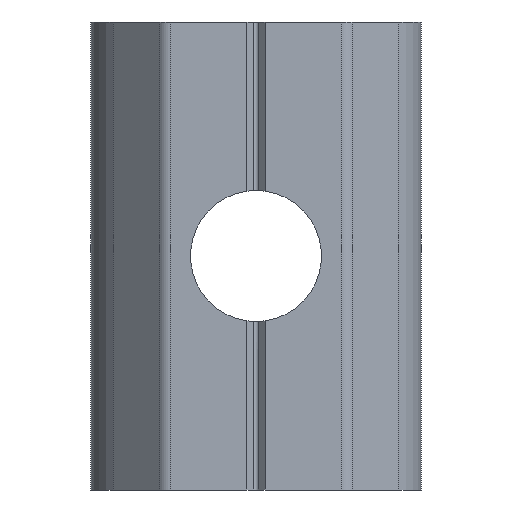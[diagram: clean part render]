
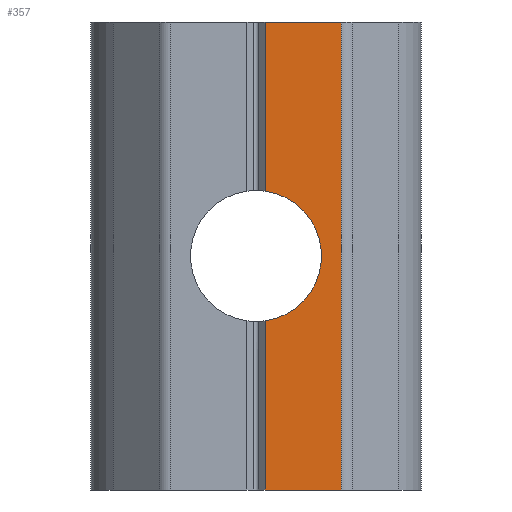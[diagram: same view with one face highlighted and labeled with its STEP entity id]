
A CAD part, front view. The second image highlights one B-rep face of the part: STEP entity #357.
In plain terms, the highlighted planar face has unit normal (0, -1, 0).
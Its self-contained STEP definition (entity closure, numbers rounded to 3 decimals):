
#8 = VECTOR ( 'NONE', #1213, 1000. ) ;
#41 = DIRECTION ( 'NONE',  ( 1., 0., 0. ) ) ;
#53 = VECTOR ( 'NONE', #1381, 1000. ) ;
#67 = ORIENTED_EDGE ( 'NONE', *, *, #1373, .F. ) ;
#71 = VERTEX_POINT ( 'NONE', #458 ) ;
#127 = EDGE_CURVE ( 'NONE', #220, #1115, #372, .T. ) ;
#161 = ORIENTED_EDGE ( 'NONE', *, *, #1418, .F. ) ;
#166 = AXIS2_PLACEMENT_3D ( 'NONE', #1031, #1313, #1257 ) ;
#187 = CARTESIAN_POINT ( 'NONE',  ( -2.936, 0., 16. ) ) ;
#220 = VERTEX_POINT ( 'NONE', #540 ) ;
#224 = CARTESIAN_POINT ( 'NONE',  ( 0.291, 0., 10.58 ) ) ;
#238 = VERTEX_POINT ( 'NONE', #406 ) ;
#304 = FACE_OUTER_BOUND ( 'NONE', #797, .T. ) ;
#308 = EDGE_CURVE ( 'NONE', #1243, #71, #959, .T. ) ;
#341 = LINE ( 'NONE', #187, #641 ) ;
#353 = EDGE_CURVE ( 'NONE', #1115, #1243, #648, .T. ) ;
#357 = ADVANCED_FACE ( 'NONE', ( #304 ), #1502, .T. ) ;
#365 = DIRECTION ( 'NONE',  ( 0., 0., -1. ) ) ;
#372 = LINE ( 'NONE', #1101, #916 ) ;
#384 = CARTESIAN_POINT ( 'NONE',  ( 2.728, 0., 1. ) ) ;
#397 = ORIENTED_EDGE ( 'NONE', *, *, #1159, .T. ) ;
#406 = CARTESIAN_POINT ( 'NONE',  ( 0.291, 0., 16. ) ) ;
#426 = CIRCLE ( 'NONE', #1487, 2.1 ) ;
#458 = CARTESIAN_POINT ( 'NONE',  ( 2.728, 0., 16. ) ) ;
#487 = LINE ( 'NONE', #857, #758 ) ;
#540 = CARTESIAN_POINT ( 'NONE',  ( 0.291, 0., 6.42 ) ) ;
#641 = VECTOR ( 'NONE', #41, 1000. ) ;
#648 = LINE ( 'NONE', #1288, #8 ) ;
#727 = CARTESIAN_POINT ( 'NONE',  ( 0., 0., 8.5 ) ) ;
#751 = DIRECTION ( 'NONE',  ( 0., 0., -1. ) ) ;
#758 = VECTOR ( 'NONE', #1205, 1000. ) ;
#763 = ORIENTED_EDGE ( 'NONE', *, *, #127, .T. ) ;
#797 = EDGE_LOOP ( 'NONE', ( #829, #1165, #161, #397, #67, #763 ) ) ;
#829 = ORIENTED_EDGE ( 'NONE', *, *, #353, .T. ) ;
#857 = CARTESIAN_POINT ( 'NONE',  ( 0.291, 0., 16. ) ) ;
#916 = VECTOR ( 'NONE', #365, 1000. ) ;
#924 = CARTESIAN_POINT ( 'NONE',  ( 0.291, 0., 1. ) ) ;
#959 = LINE ( 'NONE', #384, #53 ) ;
#983 = VERTEX_POINT ( 'NONE', #224 ) ;
#1031 = CARTESIAN_POINT ( 'NONE',  ( -2.936, 0., 1. ) ) ;
#1046 = DIRECTION ( 'NONE',  ( 0., -1., 0. ) ) ;
#1101 = CARTESIAN_POINT ( 'NONE',  ( 0.291, 0., 16. ) ) ;
#1115 = VERTEX_POINT ( 'NONE', #924 ) ;
#1159 = EDGE_CURVE ( 'NONE', #238, #983, #487, .T. ) ;
#1165 = ORIENTED_EDGE ( 'NONE', *, *, #308, .T. ) ;
#1195 = CARTESIAN_POINT ( 'NONE',  ( 2.728, 0., 1. ) ) ;
#1205 = DIRECTION ( 'NONE',  ( 0., 0., -1. ) ) ;
#1213 = DIRECTION ( 'NONE',  ( 1., 0., 0. ) ) ;
#1243 = VERTEX_POINT ( 'NONE', #1195 ) ;
#1257 = DIRECTION ( 'NONE',  ( 0., 0., -1. ) ) ;
#1288 = CARTESIAN_POINT ( 'NONE',  ( -2.936, 0., 1. ) ) ;
#1313 = DIRECTION ( 'NONE',  ( 0., -1., 0. ) ) ;
#1373 = EDGE_CURVE ( 'NONE', #220, #983, #426, .T. ) ;
#1381 = DIRECTION ( 'NONE',  ( 0., 0., 1. ) ) ;
#1418 = EDGE_CURVE ( 'NONE', #238, #71, #341, .T. ) ;
#1487 = AXIS2_PLACEMENT_3D ( 'NONE', #727, #1046, #751 ) ;
#1502 = PLANE ( 'NONE',  #166 ) ;
